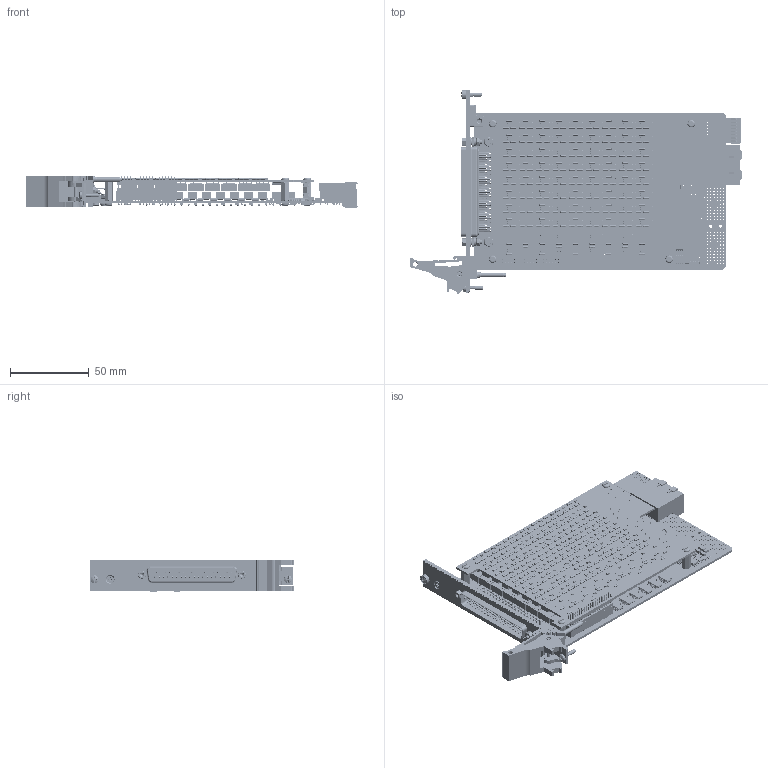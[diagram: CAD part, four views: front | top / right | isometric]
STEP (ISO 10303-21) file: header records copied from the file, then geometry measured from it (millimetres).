
FILE_DESCRIPTION (( 'STEP AP214' ), '1' );
FILE_NAME ('42-297A-034 PXIe High Density Precision Resistor Module 9-Channel 2 Ohm to 102 kOhm 2 Ohm Resolution.step', '2024-01-16T14:52:37', ( '' ), ( '' ), 'SwSTEP 2.0', 'SolidWorks 2023', '' );
FILE_SCHEMA (( 'AUTOMOTIVE_DESIGN' ));
Length unit declared in the file: millimetre
Products named in the file (115): C-RS-871 RES 10R 0204 0.25W 1% 50PPM; C-PC-1384 Programmable Resistor Daughtercard; C-RS-875 RES 62R 0204 0.25W 0.1% 15PPM; C-FX-303 12mm M2.5 Hex Standoff_12mm Hexagonal spacer; 42-297A-034 PXIe High Density Precision Resistor Module 9-Channel 2 Ohm to 102 kOhm 2 Ohm Resolution; C-CP-175 CAP 22uF 1206 25V X5R 10%; C-CN-859 D Connector Mounting Bracket; A-PC-1384-X34 Programmable Resistor Daughter; C-RS-884 RES 2K4 0204 0.25W 0.1% 15PPM; A-PC-1383-X34-PXIE Programmable Resistor Mother; C-CN-073-SCREW 4-40 UNC Screwlock_5mm Hexagonal spacer; C-RS-886 RES 0204; C-CP-141 CAP 10UF 1206 35V X5R 10%; C-CP-130 CAP 1uF CERAMIC SMT 0603; C-RS-911 RES 6K8 0204 0.25W 0.1% 15PPM; C-FX-165 Handle Finger; C-CN-1453-Bottom Body 2 x 15 Way Header ST M SM; C-RS-254 Res  0603; C-CN-1422 PXIE XJ3 RA F TH SD ASSY; C-RS-867 RES 0204 2R2 0.25W 1% 50PPM; C-CN-1453-Top Body 2 x 15 Way Header ST M SM; C-IC-458 LDO VOLTAGE REGULATOR 1.2V SOT; C-RS-879 RES 470R 0204 0.25W 0.1% 15PPM; C-BK-026 Bush Front Panel Mounting; C-CP-131 CAP 3.3nF CERAMIC SMT 0402; C-FX-432 M2.5 x 6mm Slotted Screw with Vibra Fix Solution; C-FP-399 PXI 3U 1-slot 37Way D PCB Mounting; C-IC-426 32-Flash Memory Standard Serial NOR 32Mbit SPI WSOIC-8; A-FP-399 1 x 37 Way D  FP + Label; C-RS-885 RES 3K9 0204 0.25W 0.1% 15PPM; C-MS-1069 Shielded Power Inductor; C-RS-914 RES 100K 0204 0.25W 0.1% 15PPM; C-RL-260 Signal Relay Surface Mount_No Text; C-RS-878 RES 430R 0204 0.25W 0.1% 15PPM; C-CN-1116 40 WAY PXIE XJ4 TYPE B8 RA F; C-RS-920 RES 0204 2M2 0.25W 1% 50PPM; C-RS-521 Res 120R (0603) 1-16W 1% 100pp; C-RS-800 RES 3K9 0805 0.1% 5PPM; A-FP-399-L1 1x37 Way D FP Full Assy; C-RS-865 RES 0204 1R 0.25W 1% 50PPM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
Assembly tree (1018 placements, depth 5):
  42-297A-034 PXIe High Density Precision Resistor Module 9-Channel 2 Ohm to 102 kOhm 2 Ohm Resolution
    A-PC-1383-X34-PXIE Programmable Resistor Mother
      A-PC-1383-X34-PXIE-# Programmable Resistor Mother
        C-PC-1383 Programmable Resistor Motherboard
        C-CN-1071
          C-CN-107-BODY
          C-CN-107-PIN  x8
        C-CN-1116 40 WAY PXIE XJ4 TYPE B8 RA F
          C-CN-1116-Body 40 WAY PXIE XJ4 TYPE B8 RA F
          C-CN-1116-Shield 40 WAY PXIE XJ4 TYPE B8 RA F
        C-CN-1422 PXIE XJ3 RA F TH SD ASSY
          C-CN-1422-BODY PXIE XJ3 RA F TH SD
        C-CN-1462 2 x 15 WAY HEADER ST F SM
        C-CN-1579 2 X 19 WAY HEADER ST F TH
        C-IC-497 High Accuracy 3V to 17V Step Down Converter
        C-RS-490 Res 0603 82K SMT
        C-RS-1247 RES 510K 0603 0.1W 1% 100PPM
        C-RS-256 Res 100K (0603) 1.16W 1% 100pp SMT
        C-RS-190 Res 0R0 SIZE 0603 SMT  x3
        C-MS-1069 Shielded Power Inductor
        C-CP-239  Power Line Filter  x3
        C-CP-175 CAP 22uF 1206 25V X5R 10%  x7
        C-CP-131 CAP 3.3nF CERAMIC SMT 0402
        C-CP-141 CAP 10UF 1206 35V X5R 10%  x5
        C-RL-260 Signal Relay Surface Mount_No Text  x87
        C-IC-226  16 Bit Driver IC  x6
        C-IC-489 F-RAM Semiconductor Serial-I2C FRAM Memory 512kbit 2-3.6 V 8-Pin SOIC  x2
        C-RS-862 0204 Surface Mount  x18
        C-RS-884 RES 2K4 0204 0.25W 0.1% 15PPM  x10
        C-RS-876 RES 130R 0204 0.25W 0.1% 15PPM  x10
        C-RS-875 RES 62R 0204 0.25W 0.1% 15PPM  x10
        C-RS-800 RES 3K9 0805 0.1% 5PPM  x5
        C-RS-874 RES 0204 33R 0.25W 1% 50PPM  x10
        C-RS-878 RES 430R 0204 0.25W 0.1% 15PPM  x5
        C-RS-872 RES 15R 0204 0.25W 1% 50PPM  x5
        C-RS-873 RES 0204 18R 0.25W 1% 50PPM  x5
        C-RS-877 RES 240R 0204 0.25W 0.1% 15PPM  x13
        C-RS-870 RES 0204 6R8 0.25W 1% 50PPM  x5
        C-RS-871 RES 10R 0204 0.25W 1% 50PPM  x5
        C-RS-868 RES 0204 3R3 0.25W 1% 50PPM  x5
        C-RS-869 RES 0204 4R7 0.25W 1% 50PPM  x5
        C-RS-866 RES 0204 1R8 0.25W 1% 50PPM  x5
        C-RS-867 RES 0204 2R2 0.25W 1% 50PPM  x5
        C-RS-865 RES 0204 1R 0.25W 1% 50PPM  x10
        C-RS-914 RES 100K 0204 0.25W 0.1% 15PPM  x4
        C-RS-913 RES 51K 0204 0.25W 0.1% 15PPM  x8
        C-RS-920 RES 0204 2M2 0.25W 1% 50PPM  x4
        C-RS-912 RES 13K 0204 0.25W 0.1% 15PPM  x8
        C-RS-917 RES 390K 0204 0.25W 1% 50PPM  x4
        C-RS-911 RES 6K8 0204 0.25W 0.1% 15PPM  x8
        C-RS-889 RES 47K 0204 0.25W 0.1% 15PPM  x8
        C-RS-885 RES 3K9 0204 0.25W 0.1% 15PPM  x8
        C-RS-890 RES 68K 0204 0.25W 0.1% 15PPM  x4
        C-RS-882 RES 1K8 0204 0.25W 0.1% 15PPM  x8
        C-RS-881 RES 910R 0204 0.25W 0.1% 15PPM  x8
        C-RS-887 RES 16K 0204 0.25W 0.1% 15PPM  x4
        C-RS-879 RES 470R 0204 0.25W 0.1% 15PPM  x8
        C-RS-886 RES 0204  x4
        C-RS-254 Res  0603  x6
        C-SC-056 80V 250mA (DC) SOD323 Diode  x90
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Bounding box: 210.75 x 129.63 x 20.79 mm (x, y, z)
Volume: 125682.2 mm3; surface area: 163695.5 mm2
Topology: 1024 solids, 1051 shells, 53475 faces, 131749 edges, 83170 vertices
Faces by surface type: plane 32551, cylinder 15358, torus 2597, sphere 1452, cone 1393, bspline 124
Entity records: 632308 total; most frequent: CARTESIAN_POINT 87080, DIRECTION 86844, ORIENTED_EDGE 79800, EDGE_CURVE 39902, AXIS2_PLACEMENT_3D 31473, VERTEX_POINT 25841, VECTOR 23898, LINE 23898
